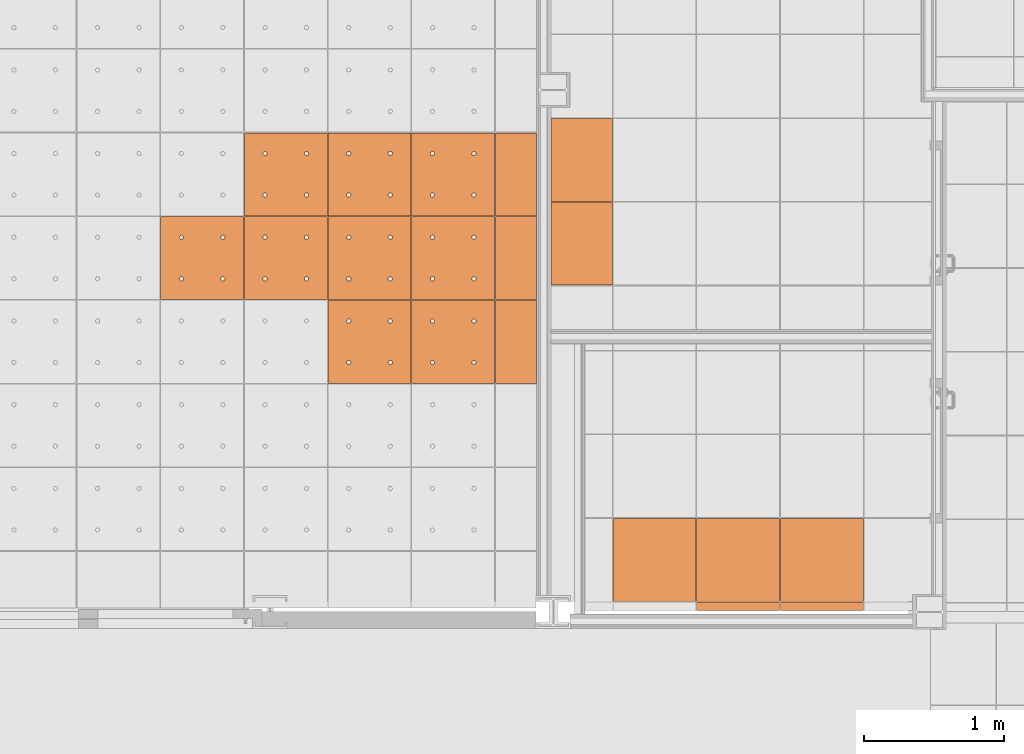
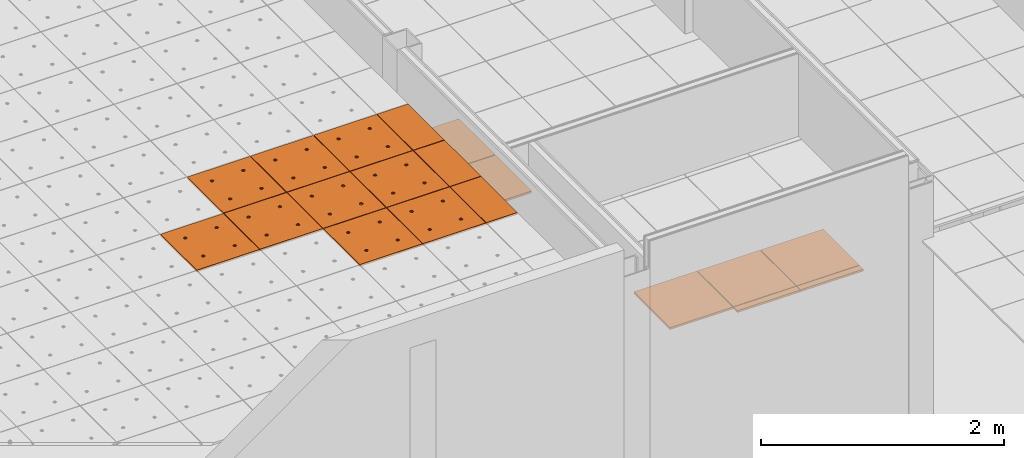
# One storey, part 251 of 338: 19 proxies, 3 elements without a shape of their own.
"""IFC2X3 building model written with IfcOpenShell, lengths in millimetres."""

from ifc_helpers import new_model, entity, si_unit, converted_unit, derived_unit, money_unit, direction, frame, origin_with_axes, place, context, subcontext, project, spatial, faceted_brep, source, transform, mapped, material, type_object, type_shapes, element, aggregate, save


model = new_model("IFC2X3")

# Units and contexts
model_context = context("Model", 3, precision=0.01, world=origin_with_axes(), true_north=direction((0.0, 1.0)))
plan_context = context("Plan", 3, precision=0.01, world=origin_with_axes(), true_north=direction((0.0, 1.0)))
body_context = subcontext(model_context, "Body", "Model", "MODEL_VIEW")
ifc_project = project(units=[si_unit("LENGTHUNIT", "METRE", prefix="MILLI"), si_unit("AREAUNIT", "SQUARE_METRE"), si_unit("VOLUMEUNIT", "CUBIC_METRE"), converted_unit("PLANEANGLEUNIT", "DEGREE", entity("IfcPlaneAngleMeasure", 0.0174532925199), si_unit("PLANEANGLEUNIT", "RADIAN"), dimensions=[0, 0, 0, 0, 0, 0, 0]), money_unit("EUR"), converted_unit("TIMEUNIT", "Year", entity("IfcTimeMeasure", 31556926.0), si_unit("TIMEUNIT", "SECOND"), dimensions=[0, 0, 1, 0, 0, 0, 0]), si_unit("MASSUNIT", "GRAM", prefix="KILO"), si_unit("THERMODYNAMICTEMPERATUREUNIT", "DEGREE_CELSIUS"), si_unit("LUMINOUSINTENSITYUNIT", "LUMEN"), si_unit("ENERGYUNIT", "JOULE", prefix="MEGA"), derived_unit("THERMALCONDUCTANCEUNIT", [(si_unit("POWERUNIT", "WATT"), 1), (si_unit("LENGTHUNIT", "METRE"), -1), (si_unit("THERMODYNAMICTEMPERATUREUNIT", "KELVIN"), -1)]), derived_unit("SPECIFICHEATCAPACITYUNIT", [(si_unit("ENERGYUNIT", "JOULE"), 1), (si_unit("MASSUNIT", "GRAM", prefix="KILO"), -1), (si_unit("THERMODYNAMICTEMPERATUREUNIT", "KELVIN"), -1)]), derived_unit("MASSDENSITYUNIT", [(si_unit("MASSUNIT", "GRAM", prefix="KILO"), 1), (si_unit("VOLUMEUNIT", "CUBIC_METRE"), -1)])], contexts=[model_context, plan_context])

# Site, building, storey
site_placement = place(None, origin_with_axes())
site = spatial("IfcSite", under=ifc_project, at=site_placement, Name="Fortuinstraat Woensdrecht", CompositionType="ELEMENT")
building_placement = place(site_placement, origin_with_axes())
building = spatial("IfcBuilding", under=site, at=building_placement, Name="IKC Fortuna", CompositionType="ELEMENT")
storey_placement = place(building_placement, origin_with_axes())
storey = spatial("IfcBuildingStorey", under=building, at=storey_placement, Name="00 begane grond", CompositionType="ELEMENT", Elevation=0.0)

# Covering, proxies
covering_type = type_object("IfcCoveringType", Name="Curtain Wall Type", PredefinedType="CEILING")
covering_1_placement = place(storey_placement, frame((20894.5342271, 16221.6737522, 2810.0), z_axis=(0.0, 0.0, 1.0), x_axis=(1.0, 0.0, 0.0)))
covering_1 = element("IfcCovering", 1, at=covering_1_placement, inside=storey, type_object=covering_type, Name="45_Plafondafwerking_P02", PredefinedType="CEILING")
ifc_material = material(Name="Gipsplaat")
building_element_proxy_type_1 = type_object("IfcBuildingElementProxyType", Name="Distinct Panel 600 x 600 x 20", PredefinedType="NOTDEFINED")
shared_shape_1 = source(origin_with_axes(), body_context, "Body", "Brep", [
    faceted_brep([(-2.50000185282, 2.50000514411, -10.0), (-2.50000185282, 2.50000514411, 10.0), (-597.499994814, 2.50000188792, 10.0), (-597.499994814, 2.50000188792, -10.0), (-2.50000510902, 597.499998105, -10.0), (-2.50000510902, 597.499998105, 10.0), (-597.49998844, 597.50000293, 10.0), (-597.49998844, 597.50000293, -10.0)], [[[0, 1, 2, 3]], [[4, 5, 1, 0]], [[1, 5, 6, 2]], [[3, 2, 6, 7]], [[0, 3, 7, 4]], [[7, 6, 5, 4]]]),
])
type_shapes(building_element_proxy_type_1, [shared_shape_1])
proxy_1_placement = place(covering_1_placement, frame((1600.00000086, 333.258042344, 0.0), z_axis=(0.0, 0.0, 1.0), x_axis=(1.0, 0.0, 0.0)))
proxy_1 = element("IfcBuildingElementProxy", 2, at=proxy_1_placement, type_object=building_element_proxy_type_1, material=ifc_material, Name="__Panel-D", context=body_context, shape_type="MappedRepresentation", body=[
    mapped(shared_shape_1, transform((-300.0, 300.0, 0.0), x_axis=(-1.0, 0.0, 0.0), y_axis=(0.0, -1.0, 0.0), z_axis=(0.0, 0.0, 1.0))),
])
proxy_2_placement = place(covering_1_placement, frame((1000.00000086, 333.258042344, 0.0), z_axis=(0.0, 0.0, 1.0), x_axis=(1.0, 0.0, 0.0)))
proxy_2 = element("IfcBuildingElementProxy", 3, at=proxy_2_placement, type_object=building_element_proxy_type_1, material=ifc_material, Name="__Panel-D", context=body_context, shape_type="MappedRepresentation", body=[
    mapped(shared_shape_1, transform((-300.0, 300.0, 0.0), x_axis=(-1.0, 0.0, 0.0), y_axis=(0.0, -1.0, 0.0), z_axis=(0.0, 0.0, 1.0))),
])
proxy_3_placement = place(covering_1_placement, frame((400.000000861, 333.258042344, 0.0), z_axis=(0.0, 0.0, 1.0), x_axis=(1.0, 0.0, 0.0)))
proxy_3 = element("IfcBuildingElementProxy", 4, at=proxy_3_placement, type_object=building_element_proxy_type_1, material=ifc_material, Name="__Panel-D", context=body_context, shape_type="MappedRepresentation", body=[
    mapped(shared_shape_1, transform((-300.0, 300.0, 0.0), x_axis=(-1.0, 0.0, 0.0), y_axis=(0.0, -1.0, 0.0), z_axis=(0.0, 0.0, 1.0))),
])
building_element_proxy_type_2 = type_object("IfcBuildingElementProxyType", Name="Distinct Panel 600 x 67 x 20", PredefinedType="NOTDEFINED")
shared_shape_2 = source(origin_with_axes(), body_context, "Body", "Brep", [
    faceted_brep([(-2.5, 2.50000243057, -10.0), (-2.5, 2.50000243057, 10.0), (-597.5, 2.50000243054, 10.0), (-597.5, 2.50000243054, -10.0), (-2.5, 64.0160688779, -10.0), (-2.5, 64.0160688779, 10.0), (-597.5, 64.0160688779, 10.0), (-597.5, 64.0160688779, -10.0)], [[[0, 1, 2, 3]], [[4, 5, 1, 0]], [[1, 5, 6, 2]], [[3, 2, 6, 7]], [[0, 3, 7, 4]], [[7, 6, 5, 4]]]),
])
type_shapes(building_element_proxy_type_2, [shared_shape_2])
proxy_4_placement = place(covering_1_placement, frame((1000.00000086, 7.90501175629e-06, 0.0), z_axis=(0.0, 0.0, 1.0), x_axis=(1.0, 0.0, 0.0)))
proxy_4 = element("IfcBuildingElementProxy", 5, at=proxy_4_placement, type_object=building_element_proxy_type_2, material=ifc_material, Name="__Panel-D", context=body_context, shape_type="MappedRepresentation", body=[
    mapped(shared_shape_2, transform((-300.0, 33.2580344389, 0.0), x_axis=(-1.0, 0.0, 0.0), y_axis=(0.0, -1.0, 0.0), z_axis=(0.0, 0.0, 1.0))),
])
proxy_5_placement = place(covering_1_placement, frame((1600.00000086, 7.90499399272e-06, 0.0), z_axis=(0.0, 0.0, 1.0), x_axis=(1.0, 0.0, 0.0)))
proxy_5 = element("IfcBuildingElementProxy", 6, at=proxy_5_placement, type_object=building_element_proxy_type_2, material=ifc_material, Name="__Panel-D", context=body_context, shape_type="MappedRepresentation", body=[
    mapped(shared_shape_2, transform((-300.0, 33.2580344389, 0.0), x_axis=(-1.0, 0.0, 0.0), y_axis=(0.0, -1.0, 0.0), z_axis=(0.0, 0.0, 1.0))),
])
aggregate(covering_1, [proxy_1, proxy_2, proxy_3, proxy_4, proxy_5])

covering_2_placement = place(storey_placement, frame((21294.5342274, 19421.5253195, 2810.0), z_axis=(0.0, 0.0, 1.0), x_axis=(1.0, 0.0, 0.0)))
covering_2 = element("IfcCovering", 7, at=covering_2_placement, inside=storey, type_object=covering_type, Name="45_Plafondafwerking_P02", PredefinedType="CEILING")
building_element_proxy_type_3 = type_object("IfcBuildingElementProxyType", Name="Distinct Panel 443 x 600 x 20", PredefinedType="NOTDEFINED")
shared_shape_3 = source(origin_with_axes(), body_context, "Body", "Brep", [
    faceted_brep([(2.49999594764, 2.5, -10.0), (440.099264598, 2.49999999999, -10.0), (440.099264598, 2.49999999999, 10.0), (2.49999594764, 2.5, 10.0), (2.49999594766, 597.5, -10.0), (440.099264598, 597.5, -10.0), (440.099264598, 597.5, 10.0), (2.49999594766, 597.5, 10.0)], [[[0, 1, 2, 3]], [[0, 4, 5, 1]], [[1, 5, 6, 2]], [[3, 2, 6, 7]], [[4, 0, 3, 7]], [[5, 4, 7, 6]]]),
])
type_shapes(building_element_proxy_type_3, [shared_shape_3])
proxy_6_placement = place(covering_2_placement, frame((-521.299632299, 0.0, 0.0), z_axis=(0.0, 0.0, 1.0), x_axis=(1.0, 0.0, 0.0)))
proxy_6 = element("IfcBuildingElementProxy", 8, at=proxy_6_placement, type_object=building_element_proxy_type_3, material=ifc_material, Name="__Panel-D", context=body_context, shape_type="MappedRepresentation", body=[
    mapped(shared_shape_3, transform((221.299632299, 300.0, 0.0), x_axis=(-1.0, 0.0, 0.0), y_axis=(0.0, -1.0, 0.0), z_axis=(0.0, 0.0, 1.0))),
])
proxy_7_placement = place(covering_2_placement, frame((-521.299634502, -600.0, 0.0), z_axis=(0.0, 0.0, 1.0), x_axis=(1.0, 0.0, 0.0)))
proxy_7 = element("IfcBuildingElementProxy", 9, at=proxy_7_placement, type_object=building_element_proxy_type_3, material=ifc_material, Name="__Panel-D", context=body_context, shape_type="MappedRepresentation", body=[
    mapped(shared_shape_3, transform((221.299634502, 300.0, 0.0), x_axis=(-1.0, 0.0, 0.0), y_axis=(0.0, -1.0, 0.0), z_axis=(0.0, 0.0, 1.0))),
])
aggregate(covering_2, [proxy_6, proxy_7])

covering_3_placement = place(storey_placement, frame((17451.9845996, 24118.5314449, 3210.0), z_axis=(0.0, 0.0, 1.0), x_axis=(1.0, 0.0, 0.0)))
covering_3 = element("IfcCovering", 10, at=covering_3_placement, inside=storey, type_object=covering_type, Name="45_Plafondafwerking_P01", PredefinedType="CEILING")
building_element_proxy_type_4 = type_object("IfcBuildingElementProxyType", Name="Main Panel 600 x 600 x 20", PredefinedType="NOTDEFINED")
shared_shape_4 = source(origin_with_axes(), body_context, "Body", "Brep", [
    faceted_brep([(2.49999999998, 2.49999999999, -10.0), (300.0, 2.49999999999, -10.0), (300.0, 2.49999999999, 10.0), (2.49999999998, 2.49999999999, 10.0), (2.49999999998, 300.0, -10.0), (2.49999999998, 597.5, -10.0), (300.0, 597.5, -10.0), (597.5, 597.5, -10.0), (597.5, 300.0, -10.0), (597.5, 2.49999999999, -10.0), (166.25, 450.06232995, -10.0), (165.79423259, 452.64711538, -10.0), (164.896546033, 455.11348892, -10.0), (163.58421608, 457.38651108, -10.0), (161.897117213, 459.39711721, -10.0), (159.886511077, 461.08421608, -10.0), (157.613488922, 462.39654603, -10.0), (155.147115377, 463.29423259, -10.0), (152.562329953, 463.75, -10.0), (149.937670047, 463.75, -10.0), (147.352884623, 463.29423259, -10.0), (144.886511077, 462.39654603, -10.0), (142.613488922, 461.08421608, -10.0), (140.602882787, 459.39711721, -10.0), (138.91578392, 457.38651108, -10.0), (137.603453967, 455.11348892, -10.0), (136.705767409, 452.64711538, -10.0), (136.25, 450.06232995, -10.0), (136.25, 448.75, -10.0), (136.25, 447.43767005, -10.0), (136.705767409, 444.85288462, -10.0), (137.603453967, 442.38651108, -10.0), (138.91578392, 440.11348892, -10.0), (140.602882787, 438.10288279, -10.0), (142.613488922, 436.41578392, -10.0), (144.886511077, 435.10345397, -10.0), (147.352884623, 434.20576741, -10.0), (149.937670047, 433.75, -10.0), (152.562329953, 433.75, -10.0), (155.147115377, 434.20576741, -10.0), (157.613488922, 435.10345397, -10.0), (159.886511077, 436.41578392, -10.0), (161.897117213, 438.10288279, -10.0), (163.58421608, 440.11348892, -10.0), (164.896546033, 442.38651108, -10.0), (165.79423259, 444.85288462, -10.0), (166.25, 447.43767005, -10.0), (463.75, 450.06232995, -10.0), (463.29423259, 452.64711538, -10.0), (462.396546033, 455.11348892, -10.0), (461.08421608, 457.38651108, -10.0), (459.397117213, 459.39711721, -10.0), (457.386511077, 461.08421608, -10.0), (455.113488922, 462.39654603, -10.0), (452.647115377, 463.29423259, -10.0), (450.062329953, 463.75, -10.0), (447.437670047, 463.75, -10.0), (444.852884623, 463.29423259, -10.0), (442.386511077, 462.39654603, -10.0), (440.113488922, 461.08421608, -10.0), (438.102882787, 459.39711721, -10.0), (436.41578392, 457.38651108, -10.0), (435.103453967, 455.11348892, -10.0), (434.205767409, 452.64711538, -10.0), (433.75, 450.06232995, -10.0), (433.75, 448.75, -10.0), (433.75, 447.43767005, -10.0), (434.205767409, 444.85288462, -10.0), (435.103453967, 442.38651108, -10.0), (436.41578392, 440.11348892, -10.0), (438.102882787, 438.10288279, -10.0), (440.113488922, 436.41578392, -10.0), (442.386511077, 435.10345397, -10.0), (444.852884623, 434.20576741, -10.0), (447.437670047, 433.75, -10.0), (450.062329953, 433.75, -10.0), (452.647115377, 434.20576741, -10.0), (455.113488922, 435.10345397, -10.0), (457.386511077, 436.41578392, -10.0), (459.397117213, 438.10288279, -10.0), (461.08421608, 440.11348892, -10.0), (462.396546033, 442.38651108, -10.0), (463.29423259, 444.85288462, -10.0), (463.75, 447.43767005, -10.0), (463.75, 152.56232995, -10.0), (463.29423259, 155.14711538, -10.0), (462.396546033, 157.61348892, -10.0), (461.08421608, 159.88651108, -10.0), (459.397117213, 161.89711721, -10.0), (457.386511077, 163.58421608, -10.0), (455.113488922, 164.89654603, -10.0), (452.647115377, 165.79423259, -10.0), (450.062329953, 166.25, -10.0), (447.437670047, 166.25, -10.0), (444.852884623, 165.79423259, -10.0), (442.386511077, 164.89654603, -10.0), (440.113488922, 163.58421608, -10.0), (438.102882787, 161.89711721, -10.0), (436.41578392, 159.88651108, -10.0), (435.103453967, 157.61348892, -10.0), (434.205767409, 155.14711538, -10.0), (433.75, 152.56232995, -10.0), (433.75, 151.25, -10.0), (433.75, 149.93767005, -10.0), (434.205767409, 147.35288462, -10.0), (435.103453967, 144.88651108, -10.0), (436.41578392, 142.61348892, -10.0), (438.102882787, 140.60288279, -10.0), (440.113488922, 138.91578392, -10.0), (442.386511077, 137.60345397, -10.0), (444.852884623, 136.70576741, -10.0), (447.437670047, 136.25, -10.0), (450.062329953, 136.25, -10.0), (452.647115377, 136.70576741, -10.0), (455.113488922, 137.60345397, -10.0), (457.386511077, 138.91578392, -10.0), (459.397117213, 140.60288279, -10.0), (461.08421608, 142.61348892, -10.0), (462.396546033, 144.88651108, -10.0), (463.29423259, 147.35288462, -10.0), (463.75, 149.93767005, -10.0), (166.25, 152.56232995, -10.0), (165.79423259, 155.14711538, -10.0), (164.896546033, 157.61348892, -10.0), (163.58421608, 159.88651108, -10.0), (161.897117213, 161.89711721, -10.0), (159.886511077, 163.58421608, -10.0), (157.613488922, 164.89654603, -10.0), (155.147115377, 165.79423259, -10.0), (152.562329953, 166.25, -10.0), (149.937670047, 166.25, -10.0), (147.352884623, 165.79423259, -10.0), (144.886511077, 164.89654603, -10.0), (142.613488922, 163.58421608, -10.0), (140.602882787, 161.89711721, -10.0), (138.91578392, 159.88651108, -10.0), (137.603453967, 157.61348892, -10.0), (136.705767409, 155.14711538, -10.0), (136.25, 152.56232995, -10.0), (136.25, 151.25, -10.0), (136.25, 149.93767005, -10.0), (136.705767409, 147.35288462, -10.0), (137.603453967, 144.88651108, -10.0), (138.91578392, 142.61348892, -10.0), (140.602882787, 140.60288279, -10.0), (142.613488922, 138.91578392, -10.0), (144.886511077, 137.60345397, -10.0), (147.352884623, 136.70576741, -10.0), (149.937670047, 136.25, -10.0), (152.562329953, 136.25, -10.0), (155.147115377, 136.70576741, -10.0), (157.613488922, 137.60345397, -10.0), (159.886511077, 138.91578392, -10.0), (161.897117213, 140.60288279, -10.0), (163.58421608, 142.61348892, -10.0), (164.896546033, 144.88651108, -10.0), (165.79423259, 147.35288462, -10.0), (166.25, 149.93767005, -10.0), (597.5, 2.49999999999, 10.0), (597.5, 300.0, 10.0), (597.5, 597.5, 10.0), (300.0, 597.5, 10.0), (2.49999999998, 597.5, 10.0), (2.49999999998, 300.0, 10.0), (166.25, 450.06232995, 10.0), (166.25, 447.43767005, 10.0), (165.79423259, 444.85288462, 10.0), (164.896546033, 442.38651108, 10.0), (163.58421608, 440.11348892, 10.0), (161.897117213, 438.10288279, 10.0), (159.886511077, 436.41578392, 10.0), (157.613488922, 435.10345397, 10.0), (155.147115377, 434.20576741, 10.0), (152.562329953, 433.75, 10.0), (149.937670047, 433.75, 10.0), (147.352884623, 434.20576741, 10.0), (144.886511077, 435.10345397, 10.0), (142.613488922, 436.41578392, 10.0), (140.602882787, 438.10288279, 10.0), (138.91578392, 440.11348892, 10.0), (137.603453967, 442.38651108, 10.0), (136.705767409, 444.85288462, 10.0), (136.25, 447.43767005, 10.0), (136.25, 448.75, 10.0), (136.25, 450.06232995, 10.0), (136.705767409, 452.64711538, 10.0), (137.603453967, 455.11348892, 10.0), (138.91578392, 457.38651108, 10.0), (140.602882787, 459.39711721, 10.0), (142.613488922, 461.08421608, 10.0), (144.886511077, 462.39654603, 10.0), (147.352884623, 463.29423259, 10.0), (149.937670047, 463.75, 10.0), (152.562329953, 463.75, 10.0), (155.147115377, 463.29423259, 10.0), (157.613488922, 462.39654603, 10.0), (159.886511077, 461.08421608, 10.0), (161.897117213, 459.39711721, 10.0), (163.58421608, 457.38651108, 10.0), (164.896546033, 455.11348892, 10.0), (165.79423259, 452.64711538, 10.0), (463.75, 450.06232995, 10.0), (463.75, 447.43767005, 10.0), (463.29423259, 444.85288462, 10.0), (462.396546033, 442.38651108, 10.0), (461.08421608, 440.11348892, 10.0), (459.397117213, 438.10288279, 10.0), (457.386511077, 436.41578392, 10.0), (455.113488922, 435.10345397, 10.0), (452.647115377, 434.20576741, 10.0), (450.062329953, 433.75, 10.0), (447.437670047, 433.75, 10.0), (444.852884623, 434.20576741, 10.0), (442.386511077, 435.10345397, 10.0), (440.113488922, 436.41578392, 10.0), (438.102882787, 438.10288279, 10.0), (436.41578392, 440.11348892, 10.0), (435.103453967, 442.38651108, 10.0), (434.205767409, 444.85288462, 10.0), (433.75, 447.43767005, 10.0), (433.75, 448.75, 10.0), (433.75, 450.06232995, 10.0), (434.205767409, 452.64711538, 10.0), (435.103453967, 455.11348892, 10.0), (436.41578392, 457.38651108, 10.0), (438.102882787, 459.39711721, 10.0), (440.113488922, 461.08421608, 10.0), (442.386511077, 462.39654603, 10.0), (444.852884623, 463.29423259, 10.0), (447.437670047, 463.75, 10.0), (450.062329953, 463.75, 10.0), (452.647115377, 463.29423259, 10.0), (455.113488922, 462.39654603, 10.0), (457.386511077, 461.08421608, 10.0), (459.397117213, 459.39711721, 10.0), (461.08421608, 457.38651108, 10.0), (462.396546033, 455.11348892, 10.0), (463.29423259, 452.64711538, 10.0), (463.75, 152.56232995, 10.0), (463.75, 149.93767005, 10.0), (463.29423259, 147.35288462, 10.0), (462.396546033, 144.88651108, 10.0), (461.08421608, 142.61348892, 10.0), (459.397117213, 140.60288279, 10.0), (457.386511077, 138.91578392, 10.0), (455.113488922, 137.60345397, 10.0), (452.647115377, 136.70576741, 10.0), (450.062329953, 136.25, 10.0), (447.437670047, 136.25, 10.0), (444.852884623, 136.70576741, 10.0), (442.386511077, 137.60345397, 10.0), (440.113488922, 138.91578392, 10.0), (438.102882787, 140.60288279, 10.0), (436.41578392, 142.61348892, 10.0), (435.103453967, 144.88651108, 10.0), (434.205767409, 147.35288462, 10.0), (433.75, 149.93767005, 10.0), (433.75, 151.25, 10.0), (433.75, 152.56232995, 10.0), (434.205767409, 155.14711538, 10.0), (435.103453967, 157.61348892, 10.0), (436.41578392, 159.88651108, 10.0), (438.102882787, 161.89711721, 10.0), (440.113488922, 163.58421608, 10.0), (442.386511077, 164.89654603, 10.0), (444.852884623, 165.79423259, 10.0), (447.437670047, 166.25, 10.0), (450.062329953, 166.25, 10.0), (452.647115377, 165.79423259, 10.0), (455.113488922, 164.89654603, 10.0), (457.386511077, 163.58421608, 10.0), (459.397117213, 161.89711721, 10.0), (461.08421608, 159.88651108, 10.0), (462.396546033, 157.61348892, 10.0), (463.29423259, 155.14711538, 10.0), (166.25, 152.56232995, 10.0), (166.25, 149.93767005, 10.0), (165.79423259, 147.35288462, 10.0), (164.896546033, 144.88651108, 10.0), (163.58421608, 142.61348892, 10.0), (161.897117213, 140.60288279, 10.0), (159.886511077, 138.91578392, 10.0), (157.613488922, 137.60345397, 10.0), (155.147115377, 136.70576741, 10.0), (152.562329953, 136.25, 10.0), (149.937670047, 136.25, 10.0), (147.352884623, 136.70576741, 10.0), (144.886511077, 137.60345397, 10.0), (142.613488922, 138.91578392, 10.0), (140.602882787, 140.60288279, 10.0), (138.91578392, 142.61348892, 10.0), (137.603453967, 144.88651108, 10.0), (136.705767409, 147.35288462, 10.0), (136.25, 149.93767005, 10.0), (136.25, 151.25, 10.0), (136.25, 152.56232995, 10.0), (136.705767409, 155.14711538, 10.0), (137.603453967, 157.61348892, 10.0), (138.91578392, 159.88651108, 10.0), (140.602882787, 161.89711721, 10.0), (142.613488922, 163.58421608, 10.0), (144.886511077, 164.89654603, 10.0), (147.352884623, 165.79423259, 10.0), (149.937670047, 166.25, 10.0), (152.562329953, 166.25, 10.0), (155.147115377, 165.79423259, 10.0), (157.613488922, 164.89654603, 10.0), (159.886511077, 163.58421608, 10.0), (161.897117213, 161.89711721, 10.0), (163.58421608, 159.88651108, 10.0), (164.896546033, 157.61348892, 10.0), (165.79423259, 155.14711538, 10.0)], [[[0, 1, 2, 3]], [[0, 4, 5, 6, 7, 8, 9, 1], [10, 11, 12, 13, 14, 15, 16, 17, 18, 19, 20, 21, 22, 23, 24, 25, 26, 27, 28, 29, 30, 31, 32, 33, 34, 35, 36, 37, 38, 39, 40, 41, 42, 43, 44, 45, 46], [47, 48, 49, 50, 51, 52, 53, 54, 55, 56, 57, 58, 59, 60, 61, 62, 63, 64, 65, 66, 67, 68, 69, 70, 71, 72, 73, 74, 75, 76, 77, 78, 79, 80, 81, 82, 83], [84, 85, 86, 87, 88, 89, 90, 91, 92, 93, 94, 95, 96, 97, 98, 99, 100, 101, 102, 103, 104, 105, 106, 107, 108, 109, 110, 111, 112, 113, 114, 115, 116, 117, 118, 119, 120], [121, 122, 123, 124, 125, 126, 127, 128, 129, 130, 131, 132, 133, 134, 135, 136, 137, 138, 139, 140, 141, 142, 143, 144, 145, 146, 147, 148, 149, 150, 151, 152, 153, 154, 155, 156, 157]], [[1, 9, 158, 2]], [[3, 2, 158, 159, 160, 161, 162, 163], [164, 165, 166, 167, 168, 169, 170, 171, 172, 173, 174, 175, 176, 177, 178, 179, 180, 181, 182, 183, 184, 185, 186, 187, 188, 189, 190, 191, 192, 193, 194, 195, 196, 197, 198, 199, 200], [201, 202, 203, 204, 205, 206, 207, 208, 209, 210, 211, 212, 213, 214, 215, 216, 217, 218, 219, 220, 221, 222, 223, 224, 225, 226, 227, 228, 229, 230, 231, 232, 233, 234, 235, 236, 237], [238, 239, 240, 241, 242, 243, 244, 245, 246, 247, 248, 249, 250, 251, 252, 253, 254, 255, 256, 257, 258, 259, 260, 261, 262, 263, 264, 265, 266, 267, 268, 269, 270, 271, 272, 273, 274], [275, 276, 277, 278, 279, 280, 281, 282, 283, 284, 285, 286, 287, 288, 289, 290, 291, 292, 293, 294, 295, 296, 297, 298, 299, 300, 301, 302, 303, 304, 305, 306, 307, 308, 309, 310, 311]], [[4, 0, 3, 163]], [[5, 4, 163, 162]], [[6, 5, 162, 161]], [[7, 6, 161, 160]], [[8, 7, 160, 159]], [[9, 8, 159, 158]], [[11, 10, 164, 200]], [[12, 11, 200, 199]], [[13, 12, 199, 198]], [[14, 13, 198, 197]], [[15, 14, 197, 196]], [[16, 15, 196, 195]], [[17, 16, 195, 194]], [[18, 17, 194, 193]], [[19, 18, 193, 192]], [[20, 19, 192, 191]], [[21, 20, 191, 190]], [[22, 21, 190, 189]], [[23, 22, 189, 188]], [[24, 23, 188, 187]], [[25, 24, 187, 186]], [[26, 25, 186, 185]], [[27, 26, 185, 184]], [[28, 27, 184, 183]], [[29, 28, 183, 182]], [[30, 29, 182, 181]], [[31, 30, 181, 180]], [[32, 31, 180, 179]], [[33, 32, 179, 178]], [[34, 33, 178, 177]], [[35, 34, 177, 176]], [[36, 35, 176, 175]], [[37, 36, 175, 174]], [[38, 37, 174, 173]], [[39, 38, 173, 172]], [[40, 39, 172, 171]], [[41, 40, 171, 170]], [[42, 41, 170, 169]], [[43, 42, 169, 168]], [[44, 43, 168, 167]], [[45, 44, 167, 166]], [[46, 45, 166, 165]], [[10, 46, 165, 164]], [[48, 47, 201, 237]], [[49, 48, 237, 236]], [[50, 49, 236, 235]], [[51, 50, 235, 234]], [[52, 51, 234, 233]], [[53, 52, 233, 232]], [[54, 53, 232, 231]], [[55, 54, 231, 230]], [[56, 55, 230, 229]], [[57, 56, 229, 228]], [[58, 57, 228, 227]], [[59, 58, 227, 226]], [[60, 59, 226, 225]], [[61, 60, 225, 224]], [[62, 61, 224, 223]], [[63, 62, 223, 222]], [[64, 63, 222, 221]], [[65, 64, 221, 220]], [[66, 65, 220, 219]], [[67, 66, 219, 218]], [[68, 67, 218, 217]], [[69, 68, 217, 216]], [[70, 69, 216, 215]], [[71, 70, 215, 214]], [[72, 71, 214, 213]], [[73, 72, 213, 212]], [[74, 73, 212, 211]], [[75, 74, 211, 210]], [[76, 75, 210, 209]], [[77, 76, 209, 208]], [[78, 77, 208, 207]], [[79, 78, 207, 206]], [[80, 79, 206, 205]], [[81, 80, 205, 204]], [[82, 81, 204, 203]], [[83, 82, 203, 202]], [[47, 83, 202, 201]], [[85, 84, 238, 274]], [[86, 85, 274, 273]], [[87, 86, 273, 272]], [[88, 87, 272, 271]], [[89, 88, 271, 270]], [[90, 89, 270, 269]], [[91, 90, 269, 268]], [[92, 91, 268, 267]], [[93, 92, 267, 266]], [[94, 93, 266, 265]], [[95, 94, 265, 264]], [[96, 95, 264, 263]], [[97, 96, 263, 262]], [[98, 97, 262, 261]], [[99, 98, 261, 260]], [[100, 99, 260, 259]], [[101, 100, 259, 258]], [[102, 101, 258, 257]], [[103, 102, 257, 256]], [[104, 103, 256, 255]], [[105, 104, 255, 254]], [[106, 105, 254, 253]], [[107, 106, 253, 252]], [[108, 107, 252, 251]], [[109, 108, 251, 250]], [[110, 109, 250, 249]], [[111, 110, 249, 248]], [[112, 111, 248, 247]], [[113, 112, 247, 246]], [[114, 113, 246, 245]], [[115, 114, 245, 244]], [[116, 115, 244, 243]], [[117, 116, 243, 242]], [[118, 117, 242, 241]], [[119, 118, 241, 240]], [[120, 119, 240, 239]], [[84, 120, 239, 238]], [[122, 121, 275, 311]], [[123, 122, 311, 310]], [[124, 123, 310, 309]], [[125, 124, 309, 308]], [[126, 125, 308, 307]], [[127, 126, 307, 306]], [[128, 127, 306, 305]], [[129, 128, 305, 304]], [[130, 129, 304, 303]], [[131, 130, 303, 302]], [[132, 131, 302, 301]], [[133, 132, 301, 300]], [[134, 133, 300, 299]], [[135, 134, 299, 298]], [[136, 135, 298, 297]], [[137, 136, 297, 296]], [[138, 137, 296, 295]], [[139, 138, 295, 294]], [[140, 139, 294, 293]], [[141, 140, 293, 292]], [[142, 141, 292, 291]], [[143, 142, 291, 290]], [[144, 143, 290, 289]], [[145, 144, 289, 288]], [[146, 145, 288, 287]], [[147, 146, 287, 286]], [[148, 147, 286, 285]], [[149, 148, 285, 284]], [[150, 149, 284, 283]], [[151, 150, 283, 282]], [[152, 151, 282, 281]], [[153, 152, 281, 280]], [[154, 153, 280, 279]], [[155, 154, 279, 278]], [[156, 155, 278, 277]], [[157, 156, 277, 276]], [[121, 157, 276, 275]]]),
])
type_shapes(building_element_proxy_type_4, [shared_shape_4])
proxy_8_placement = place(covering_3_placement, frame((2400.0, -4800.0, 0.0), z_axis=(0.0, 0.0, 1.0), x_axis=(1.0, 0.0, 0.0)))
proxy_8 = element("IfcBuildingElementProxy", 11, at=proxy_8_placement, type_object=building_element_proxy_type_4, material=ifc_material, Name="__600x675 Rockfon Krios", context=body_context, shape_type="MappedRepresentation", body=[
    mapped(shared_shape_4, transform((300.0, 300.0, 0.0), x_axis=(-1.0, 0.0, 0.0), y_axis=(0.0, -1.0, 0.0), z_axis=(0.0, 0.0, 1.0))),
])
proxy_9_placement = place(covering_3_placement, frame((2400.0, -5400.0, 0.0), z_axis=(0.0, 0.0, 1.0), x_axis=(1.0, 0.0, 0.0)))
proxy_9 = element("IfcBuildingElementProxy", 12, at=proxy_9_placement, type_object=building_element_proxy_type_4, material=ifc_material, Name="__600x676 Rockfon Krios", context=body_context, shape_type="MappedRepresentation", body=[
    mapped(shared_shape_4, transform((300.0, 300.0, 0.0), x_axis=(-1.0, 0.0, 0.0), y_axis=(0.0, -1.0, 0.0), z_axis=(0.0, 0.0, 1.0))),
])
proxy_10_placement = place(covering_3_placement, frame((2400.0, -6000.0, 0.0), z_axis=(0.0, 0.0, 1.0), x_axis=(1.0, 0.0, 0.0)))
proxy_10 = element("IfcBuildingElementProxy", 13, at=proxy_10_placement, type_object=building_element_proxy_type_4, material=ifc_material, Name="__600x677 Rockfon Krios", context=body_context, shape_type="MappedRepresentation", body=[
    mapped(shared_shape_4, transform((300.0, 300.0, 0.0), x_axis=(-1.0, 0.0, 0.0), y_axis=(0.0, -1.0, 0.0), z_axis=(0.0, 0.0, 1.0))),
])
proxy_11_placement = place(covering_3_placement, frame((1800.0, -4800.0, 0.0), z_axis=(0.0, 0.0, 1.0), x_axis=(1.0, 0.0, 0.0)))
proxy_11 = element("IfcBuildingElementProxy", 14, at=proxy_11_placement, type_object=building_element_proxy_type_4, material=ifc_material, Name="__600x688 Rockfon Krios", context=body_context, shape_type="MappedRepresentation", body=[
    mapped(shared_shape_4, transform((300.0, 300.0, 0.0), x_axis=(-1.0, 0.0, 0.0), y_axis=(0.0, -1.0, 0.0), z_axis=(0.0, 0.0, 1.0))),
])
proxy_12_placement = place(covering_3_placement, frame((1800.0, -5400.0, 0.0), z_axis=(0.0, 0.0, 1.0), x_axis=(1.0, 0.0, 0.0)))
proxy_12 = element("IfcBuildingElementProxy", 15, at=proxy_12_placement, type_object=building_element_proxy_type_4, material=ifc_material, Name="__600x689 Rockfon Krios", context=body_context, shape_type="MappedRepresentation", body=[
    mapped(shared_shape_4, transform((300.0, 300.0, 0.0), x_axis=(-1.0, 0.0, 0.0), y_axis=(0.0, -1.0, 0.0), z_axis=(0.0, 0.0, 1.0))),
])
proxy_13_placement = place(covering_3_placement, frame((1800.0, -6000.0, 0.0), z_axis=(0.0, 0.0, 1.0), x_axis=(1.0, 0.0, 0.0)))
proxy_13 = element("IfcBuildingElementProxy", 16, at=proxy_13_placement, type_object=building_element_proxy_type_4, material=ifc_material, Name="__600x690 Rockfon Krios", context=body_context, shape_type="MappedRepresentation", body=[
    mapped(shared_shape_4, transform((300.0, 300.0, 0.0), x_axis=(-1.0, 0.0, 0.0), y_axis=(0.0, -1.0, 0.0), z_axis=(0.0, 0.0, 1.0))),
])
proxy_14_placement = place(covering_3_placement, frame((1200.0, -4800.0, 0.0), z_axis=(0.0, 0.0, 1.0), x_axis=(1.0, 0.0, 0.0)))
proxy_14 = element("IfcBuildingElementProxy", 17, at=proxy_14_placement, type_object=building_element_proxy_type_4, material=ifc_material, Name="__600x701 Rockfon Krios", context=body_context, shape_type="MappedRepresentation", body=[
    mapped(shared_shape_4, transform((300.0, 300.0, 0.0), x_axis=(-1.0, 0.0, 0.0), y_axis=(0.0, -1.0, 0.0), z_axis=(0.0, 0.0, 1.0))),
])
proxy_15_placement = place(covering_3_placement, frame((1200.0, -5400.0, 0.0), z_axis=(0.0, 0.0, 1.0), x_axis=(1.0, 0.0, 0.0)))
proxy_15 = element("IfcBuildingElementProxy", 18, at=proxy_15_placement, type_object=building_element_proxy_type_4, material=ifc_material, Name="__600x702 Rockfon Krios", context=body_context, shape_type="MappedRepresentation", body=[
    mapped(shared_shape_4, transform((300.0, 300.0, 0.0), x_axis=(-1.0, 0.0, 0.0), y_axis=(0.0, -1.0, 0.0), z_axis=(0.0, 0.0, 1.0))),
])
proxy_16_placement = place(covering_3_placement, frame((600.0, -5400.0, 0.0), z_axis=(0.0, 0.0, 1.0), x_axis=(1.0, 0.0, 0.0)))
proxy_16 = element("IfcBuildingElementProxy", 19, at=proxy_16_placement, type_object=building_element_proxy_type_4, material=ifc_material, Name="__600x715 Rockfon Krios", context=body_context, shape_type="MappedRepresentation", body=[
    mapped(shared_shape_4, transform((300.0, 300.0, 0.0), x_axis=(-1.0, 0.0, 0.0), y_axis=(0.0, -1.0, 0.0), z_axis=(0.0, 0.0, 1.0))),
])
building_element_proxy_type_5 = type_object("IfcBuildingElementProxyType", Name="300 x 600 x 20", PredefinedType="NOTDEFINED")
shared_shape_5 = source(origin_with_axes(), body_context, "Body", "Brep", [
    faceted_brep([(302.549576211, 2.5, -10.0), (597.5, 2.49999999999, -10.0), (597.5, 2.49999999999, 10.0), (302.549576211, 2.5, 10.0), (302.549576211, 597.5, -10.0), (597.5, 597.5, -10.0), (597.5, 597.5, 10.0), (302.549576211, 597.5, 10.0)], [[[0, 1, 2, 3]], [[0, 4, 5, 1]], [[1, 5, 6, 2]], [[3, 2, 6, 7]], [[4, 0, 3, 7]], [[5, 4, 7, 6]]]),
])
proxy_17_placement = place(covering_3_placement, frame((2849.97521203, -5400.0, 0.0), z_axis=(0.0, 0.0, 1.0), x_axis=(1.0, 0.0, 0.0)))
proxy_17 = element("IfcBuildingElementProxy", 20, at=proxy_17_placement, type_object=building_element_proxy_type_5, material=ifc_material, Name="__600x636 Rockfon Krios", context=body_context, shape_type="MappedRepresentation", body=[
    mapped(shared_shape_5, transform((450.024787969, 300.0, 0.0), x_axis=(-1.0, 0.0, 0.0), y_axis=(0.0, -1.0, 0.0), z_axis=(0.0, 0.0, 1.0))),
])
proxy_18_placement = place(covering_3_placement, frame((2849.97521203, -6000.0, 0.0), z_axis=(0.0, 0.0, 1.0), x_axis=(1.0, 0.0, 0.0)))
proxy_18 = element("IfcBuildingElementProxy", 21, at=proxy_18_placement, type_object=building_element_proxy_type_5, material=ifc_material, Name="__600x646 Rockfon Krios", context=body_context, shape_type="MappedRepresentation", body=[
    mapped(shared_shape_5, transform((450.024787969, 300.0, 0.0), x_axis=(-1.0, 0.0, 0.0), y_axis=(0.0, -1.0, 0.0), z_axis=(0.0, 0.0, 1.0))),
])
shared_shape_6 = source(origin_with_axes(), body_context, "Body", "Brep", [
    faceted_brep([(302.549576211, 2.5, -10.0), (597.5, 2.49999999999, -10.0), (597.5, 2.49999999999, 10.0), (302.549576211, 2.5, 10.0), (302.549576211, 597.5, -10.0), (597.5, 597.5, -10.0), (597.5, 597.5, 10.0), (302.549576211, 597.5, 10.0)], [[[0, 1, 2, 3]], [[0, 4, 5, 1]], [[1, 5, 6, 2]], [[3, 2, 6, 7]], [[4, 0, 3, 7]], [[5, 4, 7, 6]]]),
])
type_shapes(building_element_proxy_type_5, [shared_shape_5, shared_shape_6])
proxy_19_placement = place(covering_3_placement, frame((2849.97521203, -4800.0, 0.0), z_axis=(0.0, 0.0, 1.0), x_axis=(1.0, 0.0, 0.0)))
proxy_19 = element("IfcBuildingElementProxy", 22, at=proxy_19_placement, type_object=building_element_proxy_type_5, material=ifc_material, Name="__600x624 Rockfon Krios", context=body_context, shape_type="MappedRepresentation", body=[
    mapped(shared_shape_6, transform((450.024787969, 300.0, 0.0), x_axis=(-1.0, 0.0, 0.0), y_axis=(0.0, -1.0, 0.0), z_axis=(0.0, 0.0, 1.0))),
])
aggregate(covering_3, [proxy_19, proxy_17, proxy_18, proxy_8, proxy_9, proxy_10, proxy_11, proxy_12, proxy_13, proxy_14, proxy_15, proxy_16])

save(model, "model.ifc")
